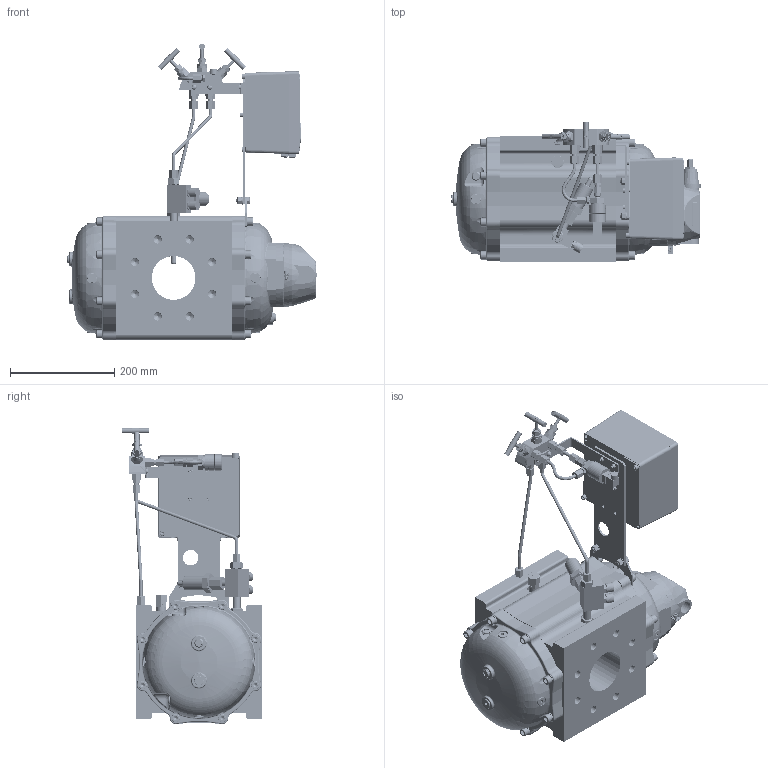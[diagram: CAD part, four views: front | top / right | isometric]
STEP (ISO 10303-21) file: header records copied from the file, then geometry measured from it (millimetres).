
FILE_DESCRIPTION(('STEP AP203'), '1');
FILE_NAME('楥-2230-G160-80', '', ('UNSPECIFIED'), ('UNSPECIFIED'), 'C3D Converter', 'C3D Toolkit', '');
FILE_SCHEMA(('CONFIG_CONTROL_DESIGN'));
Length unit declared in the file: millimetre
Bounding box: 478.5 x 267.75 x 568.35 mm (x, y, z)
Volume: 17444017.4 mm3; surface area: 990240.9 mm2
Topology: 5 solids, 8 shells, 10459 faces, 29176 edges, 19513 vertices
Faces by surface type: plane 5241, extrusion 2990, cylinder 1581, cone 268, torus 221, bspline 143, sphere 15
Full cylindrical faces by diameter (mm): 1 x23, 1.5 x1, 2 x11, 2.2 x1, 2.5 x4, 3 x17, 3.5 x4, 4 x29, 4.4 x1, 5 x5, 5.4 x1, 5.5 x5, 6 x13, 6.381 x1, 6.5 x9, 7 x16, 7.4 x4, 7.5 x7, 8 x5, 8.466 x1, 8.5 x5, 9.4 x9, 9.526 x2, 9.65 x1, 10 x21, 11 x7, 11.002 x1, 12 x17, 13.134 x3, 13.835 x16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
Entity records: 492532 total; most frequent: CARTESIAN_POINT 156643, ORIENTED_EDGE 55720, DIRECTION 41765, EDGE_CURVE 28460, VERTEX_POINT 19432, VECTOR 19149, LINE 16159, EDGE_LOOP 12045
